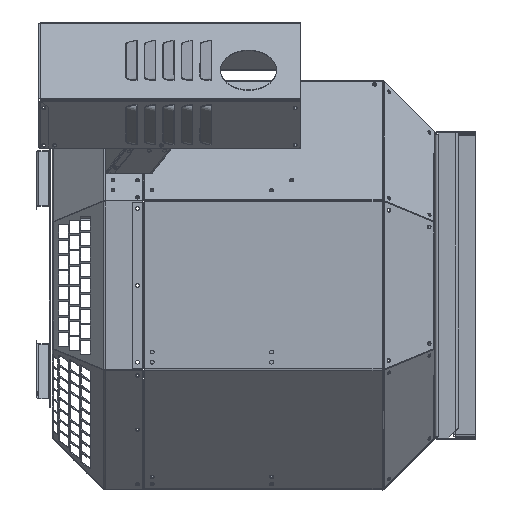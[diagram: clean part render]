
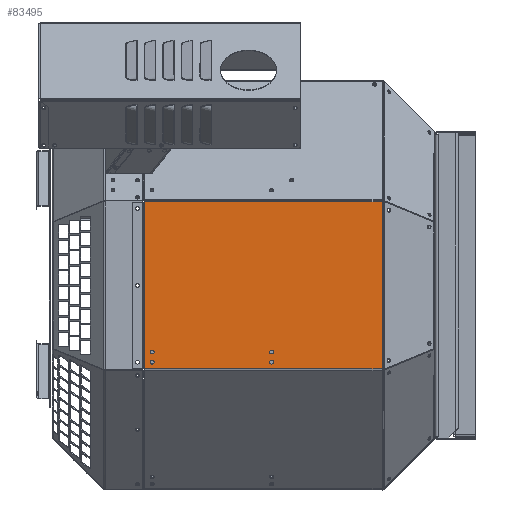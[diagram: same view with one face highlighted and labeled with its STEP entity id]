
A CAD part, left-side view. The second image highlights one B-rep face of the part: STEP entity #83495.
In plain terms, the highlighted planar face has unit normal (-1, 0, 0).
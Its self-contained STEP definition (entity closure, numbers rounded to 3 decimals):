
#550 = ORIENTED_EDGE ( 'NONE', *, *, #50273, .F. ) ;
#676 = DIRECTION ( 'NONE',  ( 0., 0., -1. ) ) ;
#1431 = CARTESIAN_POINT ( 'NONE',  ( -226., 180.147, -71.61 ) ) ;
#1855 = VERTEX_POINT ( 'NONE', #62599 ) ;
#3344 = VECTOR ( 'NONE', #51426, 1000. ) ;
#4187 = DIRECTION ( 'NONE',  ( 0., 0., 1. ) ) ;
#4855 = CIRCLE ( 'NONE', #44807, 2.1 ) ;
#4954 = ORIENTED_EDGE ( 'NONE', *, *, #75543, .F. ) ;
#5774 = VERTEX_POINT ( 'NONE', #1431 ) ;
#5860 = CARTESIAN_POINT ( 'NONE',  ( -226., 311.927, -73.71 ) ) ;
#6058 = CARTESIAN_POINT ( 'NONE',  ( -226., 320.755, 94.837 ) ) ;
#6684 = ORIENTED_EDGE ( 'NONE', *, *, #65929, .T. ) ;
#7257 = AXIS2_PLACEMENT_3D ( 'NONE', #57898, #18133, #64588 ) ;
#8109 = EDGE_LOOP ( 'NONE', ( #550, #18025 ) ) ;
#8283 = CARTESIAN_POINT ( 'NONE',  ( -226., 311.927, -86.918 ) ) ;
#8304 = FACE_BOUND ( 'NONE', #8109, .T. ) ;
#8322 = CARTESIAN_POINT ( 'NONE',  ( -226., 58.185, 92.287 ) ) ;
#8596 = DIRECTION ( 'NONE',  ( -1., 0., 0. ) ) ;
#8855 = ORIENTED_EDGE ( 'NONE', *, *, #65888, .F. ) ;
#9065 = AXIS2_PLACEMENT_3D ( 'NONE', #59703, #19940, #66380 ) ;
#9560 = AXIS2_PLACEMENT_3D ( 'NONE', #5860, #52350, #12534 ) ;
#11141 = AXIS2_PLACEMENT_3D ( 'NONE', #48401, #8596, #55079 ) ;
#12534 = DIRECTION ( 'NONE',  ( 0., 0., 1. ) ) ;
#13100 = VERTEX_POINT ( 'NONE', #62139 ) ;
#13348 = DIRECTION ( 'NONE',  ( -1., 0., 0. ) ) ;
#13651 = VERTEX_POINT ( 'NONE', #38094 ) ;
#14014 = ORIENTED_EDGE ( 'NONE', *, *, #61110, .F. ) ;
#15199 = EDGE_CURVE ( 'NONE', #50022, #13651, #73408, .T. ) ;
#15709 = CARTESIAN_POINT ( 'NONE',  ( -226., 320.763, -91.837 ) ) ;
#15900 = ORIENTED_EDGE ( 'NONE', *, *, #47608, .T. ) ;
#16544 = AXIS2_PLACEMENT_3D ( 'NONE', #45187, #58509, #18749 ) ;
#17199 = VECTOR ( 'NONE', #85647, 1000. ) ;
#17208 = EDGE_CURVE ( 'NONE', #26726, #5774, #85585, .T. ) ;
#17930 = ORIENTED_EDGE ( 'NONE', *, *, #28405, .F. ) ;
#17937 = ORIENTED_EDGE ( 'NONE', *, *, #80749, .F. ) ;
#18014 = CARTESIAN_POINT ( 'NONE',  ( -226., 320.755, -94.837 ) ) ;
#18025 = ORIENTED_EDGE ( 'NONE', *, *, #20193, .F. ) ;
#18133 = DIRECTION ( 'NONE',  ( -1., 0., 0. ) ) ;
#18341 = VECTOR ( 'NONE', #59195, 1000. ) ;
#18749 = DIRECTION ( 'NONE',  ( 0., 0., 1. ) ) ;
#18865 = VECTOR ( 'NONE', #676, 1000. ) ;
#19940 = DIRECTION ( 'NONE',  ( -1., 0., 0. ) ) ;
#20193 = EDGE_CURVE ( 'NONE', #36487, #22615, #46518, .T. ) ;
#20948 = LINE ( 'NONE', #80169, #18865 ) ;
#21004 = LINE ( 'NONE', #18014, #3344 ) ;
#21585 = CARTESIAN_POINT ( 'NONE',  ( -226., 334.155, -91.837 ) ) ;
#22615 = VERTEX_POINT ( 'NONE', #76234 ) ;
#23351 = ORIENTED_EDGE ( 'NONE', *, *, #38341, .F. ) ;
#23950 = FACE_OUTER_BOUND ( 'NONE', #25290, .T. ) ;
#25290 = EDGE_LOOP ( 'NONE', ( #4954, #78324, #15900, #48331, #17937, #23351, #6684, #25559 ) ) ;
#25559 = ORIENTED_EDGE ( 'NONE', *, *, #27271, .T. ) ;
#25840 = DIRECTION ( 'NONE',  ( -1., 0., 0. ) ) ;
#26698 = CARTESIAN_POINT ( 'NONE',  ( -226., 334.155, 91.837 ) ) ;
#26726 = VERTEX_POINT ( 'NONE', #49517 ) ;
#27271 = EDGE_CURVE ( 'NONE', #45321, #73793, #62393, .T. ) ;
#28251 = DIRECTION ( 'NONE',  ( 0., -1., 0. ) ) ;
#28405 = EDGE_CURVE ( 'NONE', #5774, #26726, #61136, .T. ) ;
#29327 = ORIENTED_EDGE ( 'NONE', *, *, #17208, .F. ) ;
#30485 = CARTESIAN_POINT ( 'NONE',  ( -226., 320.755, -92.287 ) ) ;
#31210 = DIRECTION ( 'NONE',  ( -1., 0., 0. ) ) ;
#35893 = ORIENTED_EDGE ( 'NONE', *, *, #49269, .F. ) ;
#36487 = VERTEX_POINT ( 'NONE', #8283 ) ;
#38094 = CARTESIAN_POINT ( 'NONE',  ( -226., 180.147, -82.718 ) ) ;
#38107 = LINE ( 'NONE', #6058, #18341 ) ;
#38341 = EDGE_CURVE ( 'NONE', #1855, #66079, #68693, .T. ) ;
#41003 = CARTESIAN_POINT ( 'NONE',  ( -226., 320.763, 91.837 ) ) ;
#41590 = FACE_BOUND ( 'NONE', #57590, .T. ) ;
#41622 = AXIS2_PLACEMENT_3D ( 'NONE', #83662, #43976, #4187 ) ;
#43705 = FACE_BOUND ( 'NONE', #46325, .T. ) ;
#43976 = DIRECTION ( 'NONE',  ( -1., 0., 0. ) ) ;
#44807 = AXIS2_PLACEMENT_3D ( 'NONE', #65589, #25840, #72184 ) ;
#44906 = ORIENTED_EDGE ( 'NONE', *, *, #15199, .F. ) ;
#44934 = CARTESIAN_POINT ( 'NONE',  ( -226., 334.155, -92.287 ) ) ;
#45187 = CARTESIAN_POINT ( 'NONE',  ( -226., 334.155, 93.198 ) ) ;
#45321 = VERTEX_POINT ( 'NONE', #86043 ) ;
#46325 = EDGE_LOOP ( 'NONE', ( #17930, #29327 ) ) ;
#46518 = CIRCLE ( 'NONE', #9065, 2.1 ) ;
#47405 = VERTEX_POINT ( 'NONE', #15709 ) ;
#47608 = EDGE_CURVE ( 'NONE', #13100, #60859, #21004, .T. ) ;
#47747 = LINE ( 'NONE', #21585, #80925 ) ;
#48331 = ORIENTED_EDGE ( 'NONE', *, *, #72874, .T. ) ;
#48401 = CARTESIAN_POINT ( 'NONE',  ( -226., 180.147, -84.818 ) ) ;
#49087 = CIRCLE ( 'NONE', #9560, 2.1 ) ;
#49269 = EDGE_CURVE ( 'NONE', #63815, #49742, #71608, .T. ) ;
#49517 = CARTESIAN_POINT ( 'NONE',  ( -226., 180.147, -75.81 ) ) ;
#49742 = VERTEX_POINT ( 'NONE', #78834 ) ;
#50022 = VERTEX_POINT ( 'NONE', #61142 ) ;
#50273 = EDGE_CURVE ( 'NONE', #22615, #36487, #55919, .T. ) ;
#51426 = DIRECTION ( 'NONE',  ( 0., 0., -1. ) ) ;
#52350 = DIRECTION ( 'NONE',  ( -1., 0., 0. ) ) ;
#53163 = CARTESIAN_POINT ( 'NONE',  ( -226., 311.927, -73.71 ) ) ;
#54908 = LINE ( 'NONE', #44934, #70483 ) ;
#55079 = DIRECTION ( 'NONE',  ( 0., 0., 1. ) ) ;
#55919 = CIRCLE ( 'NONE', #75213, 2.1 ) ;
#57422 = CARTESIAN_POINT ( 'NONE',  ( -226., 334.155, 92.287 ) ) ;
#57590 = EDGE_LOOP ( 'NONE', ( #8855, #44906 ) ) ;
#57898 = CARTESIAN_POINT ( 'NONE',  ( -226., 180.147, -73.71 ) ) ;
#58230 = PLANE ( 'NONE',  #16544 ) ;
#58509 = DIRECTION ( 'NONE',  ( -1., 0., 0. ) ) ;
#59195 = DIRECTION ( 'NONE',  ( 0., 0., -1. ) ) ;
#59238 = FACE_BOUND ( 'NONE', #62019, .T. ) ;
#59703 = CARTESIAN_POINT ( 'NONE',  ( -226., 311.927, -84.818 ) ) ;
#59794 = DIRECTION ( 'NONE',  ( 0., 0., 1. ) ) ;
#60859 = VERTEX_POINT ( 'NONE', #30485 ) ;
#61110 = EDGE_CURVE ( 'NONE', #49742, #63815, #49087, .T. ) ;
#61136 = CIRCLE ( 'NONE', #41622, 2.1 ) ;
#61142 = CARTESIAN_POINT ( 'NONE',  ( -226., 180.147, -86.918 ) ) ;
#62019 = EDGE_LOOP ( 'NONE', ( #14014, #35893 ) ) ;
#62139 = CARTESIAN_POINT ( 'NONE',  ( -226., 320.755, -91.837 ) ) ;
#62393 = LINE ( 'NONE', #26698, #82058 ) ;
#62599 = CARTESIAN_POINT ( 'NONE',  ( -226., 320.755, 92.287 ) ) ;
#62935 = VERTEX_POINT ( 'NONE', #68301 ) ;
#63815 = VERTEX_POINT ( 'NONE', #79396 ) ;
#64588 = DIRECTION ( 'NONE',  ( 0., 0., 1. ) ) ;
#65589 = CARTESIAN_POINT ( 'NONE',  ( -226., 180.147, -84.818 ) ) ;
#65678 = CARTESIAN_POINT ( 'NONE',  ( -226., 320.763, 93.198 ) ) ;
#65888 = EDGE_CURVE ( 'NONE', #13651, #50022, #4855, .T. ) ;
#65929 = EDGE_CURVE ( 'NONE', #1855, #45321, #38107, .T. ) ;
#66079 = VERTEX_POINT ( 'NONE', #8322 ) ;
#66380 = DIRECTION ( 'NONE',  ( 0., 0., 1. ) ) ;
#68301 = CARTESIAN_POINT ( 'NONE',  ( -226., 58.185, -92.287 ) ) ;
#68693 = LINE ( 'NONE', #57422, #84247 ) ;
#70176 = LINE ( 'NONE', #65678, #17199 ) ;
#70483 = VECTOR ( 'NONE', #84625, 1000. ) ;
#70935 = CARTESIAN_POINT ( 'NONE',  ( -226., 311.927, -84.818 ) ) ;
#71608 = CIRCLE ( 'NONE', #74071, 2.1 ) ;
#71621 = EDGE_CURVE ( 'NONE', #47405, #13100, #47747, .T. ) ;
#72184 = DIRECTION ( 'NONE',  ( 0., 0., 1. ) ) ;
#72874 = EDGE_CURVE ( 'NONE', #60859, #62935, #54908, .T. ) ;
#73408 = CIRCLE ( 'NONE', #11141, 2.1 ) ;
#73793 = VERTEX_POINT ( 'NONE', #41003 ) ;
#74071 = AXIS2_PLACEMENT_3D ( 'NONE', #53163, #13348, #59794 ) ;
#75213 = AXIS2_PLACEMENT_3D ( 'NONE', #70935, #31210, #77634 ) ;
#75543 = EDGE_CURVE ( 'NONE', #47405, #73793, #70176, .T. ) ;
#76234 = CARTESIAN_POINT ( 'NONE',  ( -226., 311.927, -82.718 ) ) ;
#77634 = DIRECTION ( 'NONE',  ( 0., 0., 1. ) ) ;
#78324 = ORIENTED_EDGE ( 'NONE', *, *, #71621, .T. ) ;
#78834 = CARTESIAN_POINT ( 'NONE',  ( -226., 311.927, -71.61 ) ) ;
#79396 = CARTESIAN_POINT ( 'NONE',  ( -226., 311.927, -75.81 ) ) ;
#79748 = DIRECTION ( 'NONE',  ( 0., 1., 0. ) ) ;
#80169 = CARTESIAN_POINT ( 'NONE',  ( -226., 58.185, 93.198 ) ) ;
#80749 = EDGE_CURVE ( 'NONE', #66079, #62935, #20948, .T. ) ;
#80925 = VECTOR ( 'NONE', #28251, 1000. ) ;
#82058 = VECTOR ( 'NONE', #79748, 1000. ) ;
#83495 = ADVANCED_FACE ( 'NONE', ( #41590, #43705, #8304, #59238, #23950 ), #58230, .T. ) ;
#83662 = CARTESIAN_POINT ( 'NONE',  ( -226., 180.147, -73.71 ) ) ;
#84089 = DIRECTION ( 'NONE',  ( 0., -1., 0. ) ) ;
#84247 = VECTOR ( 'NONE', #84089, 1000. ) ;
#84625 = DIRECTION ( 'NONE',  ( 0., -1., 0. ) ) ;
#85585 = CIRCLE ( 'NONE', #7257, 2.1 ) ;
#85647 = DIRECTION ( 'NONE',  ( 0., 0., 1. ) ) ;
#86043 = CARTESIAN_POINT ( 'NONE',  ( -226., 320.755, 91.837 ) ) ;
